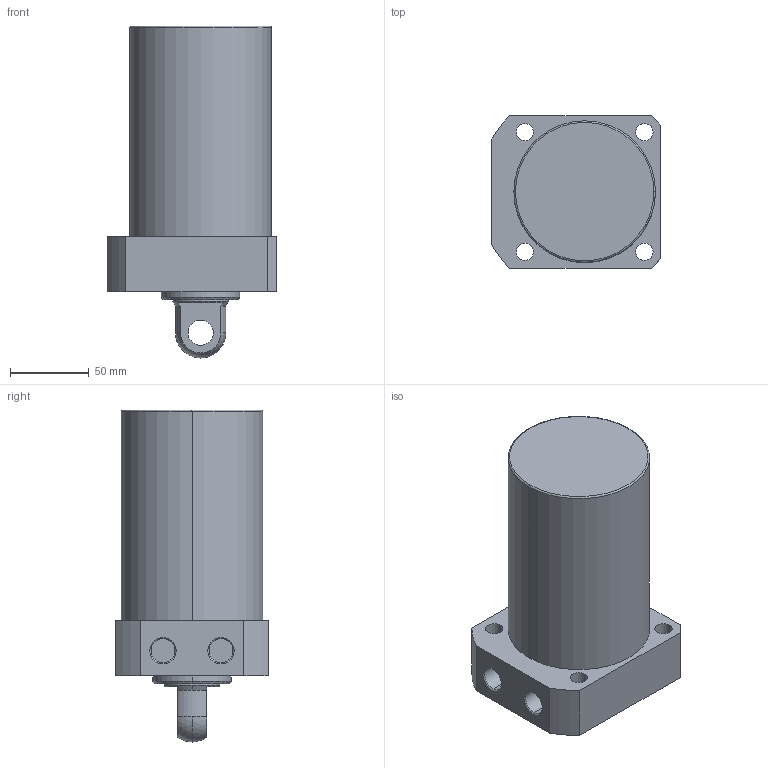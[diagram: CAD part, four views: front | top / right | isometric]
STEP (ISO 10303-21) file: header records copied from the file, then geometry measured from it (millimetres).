
FILE_DESCRIPTION (( 'STEP AP203' ), '1' );
FILE_NAME ('CLLR-090CP-090.STEP', '2019-12-18T06:52:20', ( '' ), ( '' ), 'SwSTEP 2.0', 'SolidWorks 2015', '' );
FILE_SCHEMA (( 'CONFIG_CONTROL_DESIGN' ));
Length unit declared in the file: millimetre
Products named in the file (1): CLLR-090CP-090
Bounding box: 108 x 97 x 211 mm (x, y, z)
Volume: 1216641.5 mm3; surface area: 81953.3 mm2
Topology: 1 solids, 1 shells, 59 faces, 139 edges, 89 vertices
Faces by surface type: cylinder 29, plane 18, cone 8, sphere 2, torus 2
Entity records: 1822 total; most frequent: DIRECTION 331, CARTESIAN_POINT 300, ORIENTED_EDGE 278, EDGE_CURVE 139, AXIS2_PLACEMENT_3D 136, VERTEX_POINT 89, CIRCLE 76, EDGE_LOOP 76
